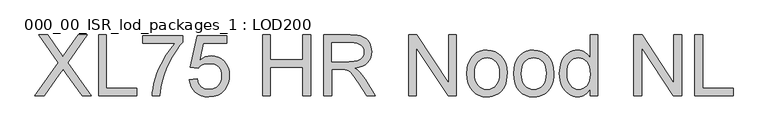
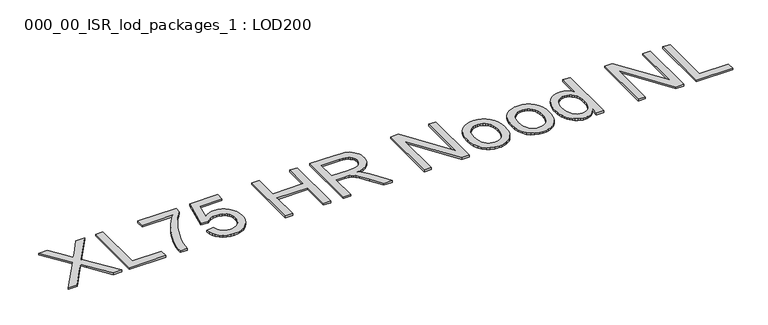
"""IFC4 building model written with IfcOpenShell, lengths in millimetres: proxy geometry, 000_00_ISR_lod_packages_1 : LOD200."""

from ifc_helpers import new_model, si_unit, origin, origin_with_axes, place, context, project, spatial, polyline, outline, extrude, source, transform, mapped, element, save


def proxy_000_00_isr_lod_packages_1_lod200_7e7a189d(model_context):
    return source(origin(), model_context, "Body", "SweptSolid", [
        extrude(outline(polyline([(500.0, 500.0), (808.1627819, 935.6043884), (549.9617936, 1299.3886983), (669.7920331, 1299.3886983), (815.1886591, 1094.6624423), (849.878928, 1042.7978069), (864.1746365, 1014.8406705), (921.5526339, 1096.0285851), (1065.3879539, 1299.3886983), (1186.9746626, 1299.3886983), (928.7736744, 934.4334088), (1236.9364563, 500.0), (1117.1062168, 500.0), (911.7944711, 789.6222725), (869.0537179, 849.7325555), (822.0193731, 783.7673749), (621.5867088, 500.0), (500.0, 500.0)])), origin_with_axes(), (0.0, 0.0, 1.0), 25.0),
        extrude(outline(polyline([(1336.8600436, 500.0), (1336.8600436, 1299.3886983), (1436.7836309, 1299.3886983), (1436.7836309, 599.9235873), (1836.47798, 599.9235873), (1836.47798, 500.0), (1336.8600436, 500.0)])), origin_with_axes(), (0.0, 0.0, 1.0), 25.0),
        extrude(outline(polyline([(1911.4206705, 1186.9746626), (1911.4206705, 1286.8982499), (2436.0195038, 1286.8982499), (2436.0195038, 1206.1006618), (2398.5420597, 1161.9998647), (2361.2475812, 1111.4708778), (2324.1360682, 1054.5137012), (2287.2075208, 991.1283348), (2252.4623623, 924.059262), (2221.9010161, 856.050966), (2195.5234822, 787.1034468), (2173.3297606, 717.2167044), (2149.5198434, 613.3410612), (2136.2487419, 500.0), (2036.3251546, 500.0), (2039.4660633, 549.0713613), (2047.13232, 602.9974086), (2059.3239246, 661.7781419), (2076.0408773, 725.4135612), (2097.0880147, 790.8847349), (2122.2701737, 855.1727313), (2151.5873541, 918.2775505), (2185.039556, 980.1991924), (2221.1203631, 1039.1201993), (2258.3233588, 1093.2231133), (2296.6485433, 1142.5079344), (2336.0959165, 1186.9746626), (1911.4206705, 1186.9746626)])), origin_with_axes(), (0.0, 0.0, 1.0), 25.0),
        extrude(outline(polyline([(2523.4526427, 712.337623), (2623.37623, 724.8280714), (2630.8412245, 692.7054192), (2641.7215761, 664.8397655), (2656.0172846, 641.2311103), (2673.7283501, 621.8794536), (2694.8181795, 606.8091909), (2719.2501797, 596.0447176), (2747.0243506, 589.5860336), (2778.1406923, 587.4331389), (2816.1975273, 590.4276751), (2849.7656074, 599.4112837), (2878.8449326, 614.3839648), (2903.4355029, 635.3457183), (2922.9884217, 661.2597395), (2936.9547922, 691.0892235), (2945.3346146, 724.8341703), (2948.1278887, 762.4945799), (2945.5114813, 798.0874788), (2937.662259, 829.7283217), (2924.580222, 857.4171087), (2906.2653702, 881.1538398), (2882.656715, 900.194455), (2853.693268, 913.7948944), (2819.3750291, 921.9551581), (2779.7019984, 924.675246), (2731.2283246, 920.3328635), (2691.9761146, 907.3057162), (2660.6280165, 887.3502732), (2635.8666784, 862.2230039), (2535.9430911, 874.7134523), (2623.37623, 1286.8982499), (3010.5801307, 1286.8982499), (3010.5801307, 1186.9746626), (2704.1738181, 1186.9746626), (2661.433065, 966.8305094), (2696.6966259, 992.1041511), (2732.814026, 1010.1567523), (2769.7852654, 1020.988313), (2807.610344, 1024.5988333), (2856.2730823, 1020.1222761), (2900.9715668, 1006.6926045), (2941.7057978, 984.3098185), (2978.475775, 952.9739182), (3008.9151442, 914.5999429), (3030.6575507, 871.1029321), (3043.7029947, 822.4828858), (3048.051476, 768.7398041), (3044.1360131, 716.9727503), (3032.3896246, 668.8162168), (3012.8123105, 624.2702035), (2985.4040707, 583.3347105), (2965.5096162, 560.8756889), (2943.8830878, 541.4112035), (2920.5244856, 524.9412543), (2895.4338094, 511.4658413), (2868.6110594, 500.9849646), (2840.0562354, 493.498624), (2777.7503658, 487.5095516), (2726.1845741, 491.3579271), (2679.6076432, 502.9030534), (2638.0195731, 522.1449308), (2601.4203636, 549.083559), (2570.9687968, 582.3771908), (2547.8236543, 620.6840787), (2531.9849363, 664.0042228), (2523.4526427, 712.337623)])), origin_with_axes(), (0.0, 0.0, 1.0), 25.0),
        extrude(outline(polyline([(3485.2171704, 500.0), (3485.2171704, 1299.3886983), (3585.1407577, 1299.3886983), (3585.1407577, 974.6370396), (4009.8160037, 974.6370396), (4009.8160037, 1299.3886983), (4109.739591, 1299.3886983), (4109.739591, 500.0), (4009.8160037, 500.0), (4009.8160037, 874.7134523), (3585.1407577, 874.7134523), (3585.1407577, 500.0), (3485.2171704, 500.0)])), origin_with_axes(), (0.0, 0.0, 1.0), 25.0),
        extrude(outline(polyline([(4284.6058687, 500.0), (4284.6058687, 1299.3886983), (4629.0690163, 1299.3886983), (4721.6495861, 1293.9973134), (4758.4805519, 1287.2580822), (4789.005305, 1277.8231585), (4814.9986112, 1264.966779), (4838.2352364, 1247.9631803), (4858.7151806, 1226.8123624), (4876.4384438, 1201.5143252), (4890.7402512, 1173.4291129), (4900.9558279, 1143.9167692), (4907.085174, 1112.9772942), (4909.1282893, 1080.6106879), (4905.7434266, 1039.5532178), (4895.5888384, 1001.8623139), (4878.6645247, 967.5379762), (4854.9704856, 936.5802046), (4824.2017785, 909.9770132), (4786.0534607, 888.716416), (4740.5255323, 872.7984129), (4687.6179932, 862.2230039), (4720.5517928, 840.7062549), (4744.4105009, 819.4822508), (4785.3459939, 770.9353907), (4825.4032523, 716.6312146), (4958.6997564, 500.0), (4842.5776188, 500.0), (4738.5556032, 665.6936047), (4663.4177494, 775.3753548), (4635.4850084, 807.3577335), (4610.6260886, 827.1911994), (4587.0845208, 838.8278086), (4563.1038356, 846.2196169), (4505.1403485, 849.7325555), (4384.529456, 849.7325555), (4384.529456, 500.0), (4284.6058687, 500.0)]), holes=[polyline([(4384.529456, 949.6561428), (4608.1865479, 949.6561428), (4672.4196546, 953.1934768), (4722.2594713, 963.8054789), (4759.7796073, 982.1996158), (4774.6973987, 994.5802849), (4787.0536724, 1009.0833544), (4803.6669446, 1041.602432), (4809.204702, 1076.902586), (4806.5638992, 1102.4567749), (4798.6414907, 1125.6446093), (4785.4374767, 1146.4660892), (4766.951857, 1164.9212147), (4742.757712, 1180.0341693), (4712.4281222, 1190.829137), (4675.9630875, 1197.3061175), (4633.362608, 1199.465111), (4384.529456, 1199.465111), (4384.529456, 949.6561428)])]), origin_with_axes(), (0.0, 0.0, 1.0), 25.0),
        extrude(outline(polyline([(5396.2557773, 500.0), (5396.2557773, 1299.3886983), (5503.2052419, 1299.3886983), (5920.8546106, 666.0839312), (5920.8546106, 1299.3886983), (6020.7781979, 1299.3886983), (6020.7781979, 500.0), (5913.8287334, 500.0), (5496.1793646, 1133.4999304), (5496.1793646, 500.0), (5396.2557773, 500.0)])), origin_with_axes(), (0.0, 0.0, 1.0), 25.0),
        extrude(outline(polyline([(6158.1731305, 793.5255377), (6163.5767131, 869.5538238), (6170.3311914, 903.6250591), (6179.7874611, 935.0676894), (6191.9455221, 963.8817146), (6206.8053744, 990.0671346), (6224.3670181, 1013.6239495), (6244.6304531, 1034.5521594), (6282.7116835, 1062.9850063), (6324.7449698, 1083.2941827), (6370.7303121, 1095.4796885), (6420.6677104, 1099.5415238), (6475.7952314, 1094.595355), (6525.6411469, 1079.7568486), (6570.2054567, 1055.0260047), (6609.4881609, 1020.4028233), (6641.5498247, 977.0582838), (6664.451013, 926.1633658), (6678.1917261, 867.7180694), (6682.7719637, 801.7223944), (6680.747145, 748.2354645), (6674.6726886, 700.7742001), (6664.5485947, 659.3386012), (6650.3748632, 623.9286678), (6632.3283608, 593.3429262), (6610.5859543, 566.3799026), (6585.1476436, 543.0395969), (6556.0134287, 523.3220091), (6524.3176961, 507.654059), (6491.1948321, 496.462666), (6456.6448369, 489.7478302), (6420.6677104, 487.5095516), (6364.7351408, 492.4374238), (6314.4257126, 507.2210405), (6269.7394258, 531.8604016), (6230.6762802, 566.3555072), (6198.9561522, 610.1208674), (6176.2989179, 662.5709926), (6162.7045773, 723.7058827), (6158.1731305, 793.5255377)]), holes=[polyline([(6258.0967177, 793.7207009), (6260.9875735, 745.253126), (6269.6601407, 703.286927), (6284.1144194, 667.822104), (6304.3504095, 638.858657), (6328.9653752, 616.3599928), (6356.5565806, 600.2895184), (6387.1240257, 590.6472338), (6420.6677104, 587.4331389), (6454.0406272, 590.6655303), (6484.4860952, 600.3627046), (6512.0041144, 616.5246618), (6536.5946847, 639.1514018), (6556.8306748, 668.4014949), (6571.2849535, 704.4335111), (6579.9575207, 747.2474505), (6582.8483764, 796.843313), (6579.9392242, 843.7739774), (6571.2117673, 884.642383), (6556.6660058, 919.44853), (6536.3019398, 948.1924184), (6511.6198867, 970.6910825), (6484.1201641, 986.7615569), (6453.802772, 996.4038416), (6420.6677104, 999.6179365), (6387.1240257, 996.4160393), (6356.5565806, 986.8103478), (6328.9653752, 970.8008619), (6304.3504095, 948.3875817), (6284.1144194, 919.5095186), (6269.6601407, 884.1056841), (6260.9875735, 842.1760782), (6258.0967177, 793.7207009)])]), origin_with_axes(), (0.0, 0.0, 1.0), 25.0),
        extrude(outline(polyline([(6770.2051026, 793.5255377), (6775.6086853, 869.5538238), (6782.3631636, 903.6250591), (6791.8194333, 935.0676894), (6803.9774943, 963.8817146), (6818.8373466, 990.0671346), (6836.3989902, 1013.6239495), (6856.6624252, 1034.5521594), (6894.7436556, 1062.9850063), (6936.776942, 1083.2941827), (6982.7622843, 1095.4796885), (7032.6996825, 1099.5415238), (7087.8272036, 1094.595355), (7137.6731191, 1079.7568486), (7182.2374289, 1055.0260047), (7221.5201331, 1020.4028233), (7253.5817968, 977.0582838), (7276.4829852, 926.1633658), (7290.2236982, 867.7180694), (7294.8039359, 801.7223944), (7292.7791171, 748.2354645), (7286.7046608, 700.7742001), (7276.5805668, 659.3386012), (7262.4068353, 623.9286678), (7244.360333, 593.3429262), (7222.6179264, 566.3799026), (7197.1796157, 543.0395969), (7168.0454009, 523.3220091), (7136.3496682, 507.654059), (7103.2268043, 496.462666), (7068.6768091, 489.7478302), (7032.6996825, 487.5095516), (6976.767113, 492.4374238), (6926.4576848, 507.2210405), (6881.7713979, 531.8604016), (6842.7082524, 566.3555072), (6810.9881244, 610.1208674), (6788.3308901, 662.5709926), (6774.7365495, 723.7058827), (6770.2051026, 793.5255377)]), holes=[polyline([(6870.1286899, 793.7207009), (6873.0195456, 745.253126), (6881.6921129, 703.286927), (6896.1463915, 667.822104), (6916.3823817, 638.858657), (6940.9973474, 616.3599928), (6968.5885528, 600.2895184), (6999.1559978, 590.6472338), (7032.6996825, 587.4331389), (7066.0725994, 590.6655303), (7096.5180674, 600.3627046), (7124.0360865, 616.5246618), (7148.6266568, 639.1514018), (7168.862647, 668.4014949), (7183.3169257, 704.4335111), (7191.9894929, 747.2474505), (7194.8803486, 796.843313), (7191.9711963, 843.7739774), (7183.2437394, 884.642383), (7168.697978, 919.44853), (7148.333912, 948.1924184), (7123.6518589, 970.6910825), (7096.1521363, 986.7615569), (7065.8347442, 996.4038416), (7032.6996825, 999.6179365), (6999.1559978, 996.4160393), (6968.5885528, 986.8103478), (6940.9973474, 970.8008619), (6916.3823817, 948.3875817), (6896.1463915, 919.5095186), (6881.6921129, 884.1056841), (6873.0195456, 842.1760782), (6870.1286899, 793.7207009)])]), origin_with_axes(), (0.0, 0.0, 1.0), 25.0),
        extrude(outline(polyline([(7769.4409755, 500.0), (7769.4409755, 594.2638529), (7739.5444042, 547.5588461), (7722.2267146, 529.2104505), (7703.3294224, 514.1981269), (7682.8525276, 502.5218752), (7660.7960302, 494.1816954), (7637.1599302, 489.1775875), (7611.9442276, 487.5095516), (7578.9616373, 489.9246969), (7547.3451897, 497.1701328), (7517.094885, 509.2458593), (7488.210723, 526.1518764), (7461.5953339, 547.3819794), (7438.1513478, 572.4299635), (7417.8787645, 601.2958289), (7400.7775841, 633.9795755), (7387.2015401, 669.8591205), (7377.5043658, 708.3123808), (7371.6860612, 749.3393566), (7369.7466264, 792.9400479), (7371.5335899, 835.7417896), (7376.8944806, 876.5187125), (7385.8292985, 915.2708166), (7398.3380434, 951.9981019), (7414.4146167, 985.6271705), (7434.0529194, 1015.0846245), (7457.2529515, 1040.3704639), (7484.014713, 1061.4846888), (7513.392882, 1078.1345541), (7544.4421363, 1090.027315), (7577.162476, 1097.1629716), (7611.5539011, 1099.5415238), (7636.7055658, 1097.8399441), (7660.4422968, 1092.7352052), (7682.7640943, 1084.227307), (7703.6709581, 1072.3162495), (7740.3128595, 1041.0169422), (7769.4409755, 1001.569569), (7769.4409755, 1299.3886983), (7869.3645628, 1299.3886983), (7869.3645628, 500.0), (7769.4409755, 500.0)]), holes=[polyline([(7469.6702137, 793.3303744), (7472.4878832, 744.8749972), (7480.9408917, 702.9453913), (7495.0292393, 667.5415568), (7514.7529259, 638.6634937), (7538.3066914, 616.2502135), (7563.8852757, 600.2407276), (7591.4886788, 590.6350361), (7621.1169007, 587.4331389), (7650.8853961, 590.4886636), (7678.3241302, 599.6552378), (7703.4331029, 614.9328615), (7726.2123142, 636.3215346), (7745.1248536, 663.9920251), (7758.6338102, 698.1151007), (7766.7391842, 738.6907615), (7769.4409755, 785.7190074), (7766.6903934, 837.2787002), (7758.438647, 881.4953755), (7744.6857362, 918.3690333), (7725.4316612, 947.8996735), (7702.152344, 970.5264136), (7676.3237068, 986.6883707), (7647.9457496, 996.385545), (7617.0184723, 999.6179365), (7586.8047606, 996.5136209), (7559.2013576, 987.2006743), (7534.208263, 971.6790965), (7511.8254771, 949.9488877), (7493.3825493, 921.5343373), (7480.2090295, 885.959735), (7472.3049176, 843.2250807), (7469.6702137, 793.3303744)])]), origin_with_axes(), (0.0, 0.0, 1.0), 25.0),
        extrude(outline(polyline([(8344.0016025, 500.0), (8344.0016025, 1299.3886983), (8450.951067, 1299.3886983), (8868.6004358, 666.0839312), (8868.6004358, 1299.3886983), (8968.5240231, 1299.3886983), (8968.5240231, 500.0), (8861.5745585, 500.0), (8443.9251898, 1133.4999304), (8443.9251898, 500.0), (8344.0016025, 500.0)])), origin_with_axes(), (0.0, 0.0, 1.0), 25.0),
        extrude(outline(polyline([(9143.3903008, 500.0), (9143.3903008, 1299.3886983), (9243.3138881, 1299.3886983), (9243.3138881, 599.9235873), (9643.0082373, 599.9235873), (9643.0082373, 500.0), (9143.3903008, 500.0)])), origin_with_axes(), (0.0, 0.0, 1.0), 25.0),
    ])


if __name__ == "__main__":
    model = new_model("IFC4")
    model_context = context("Model", 3, world=origin())
    ifc_project = project(units=[si_unit("LENGTHUNIT", "METRE", prefix="MILLI")], contexts=[model_context])
    site = spatial("IfcSite", under=ifc_project)
    building = spatial("IfcBuilding", under=site)
    placement = place(None, origin())
    proxy_000_00_isr_lod_packages_1_lod200_shape = proxy_000_00_isr_lod_packages_1_lod200_7e7a189d(model_context)
    element("IfcBuildingElementProxy", 1, Name="000_00_ISR_lod_packages_1 : LOD200", ObjectType="000_00_ISR_lod_packages_1 : LOD200", at=placement, inside=building, context=model_context, shape_type="MappedRepresentation", body=[
        mapped(proxy_000_00_isr_lod_packages_1_lod200_shape, transform((0.0, 0.0, 0.0), x_axis=(1.0, 0.0, 0.0), y_axis=(0.0, 1.0, 0.0), z_axis=(0.0, 0.0, 1.0))),
    ])
    save(model, "model.ifc")
